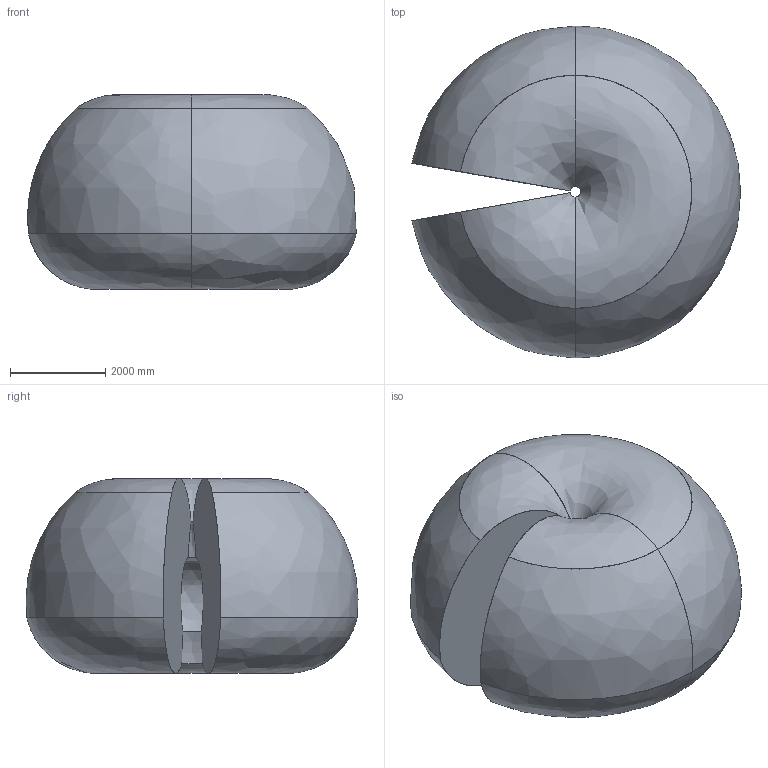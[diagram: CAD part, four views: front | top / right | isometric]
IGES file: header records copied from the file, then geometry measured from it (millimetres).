
Start section: SolidWorks IGES file using analytic representation for surfaces
Global section: file name: B:\DM\Robotics\SEROP_DEPT\ROPR\PR\PRIM\Arkiv och Arbetsmappar per person\Nicolin\1 Work Items\3-220301 - Further updates of working area\Ändring\8700\350\Klara\IRB8700_800-350_IRC5_WORKING_AREA.IGS; native system: SolidWorks 2016; preprocessor: SolidWorks 2016; author: SENIAHL; date: 190122.124724; units: millimetre
Bounding box: 6900.27 x 6973.07 x 4093.19 mm (x, y, z)
Surface area: 155172670.9 mm2 (no closed solid volume)
Topology: 0 solids, 0 shells, 20 faces, 288 edges, 288 vertices
Faces by surface type: bspline 20
